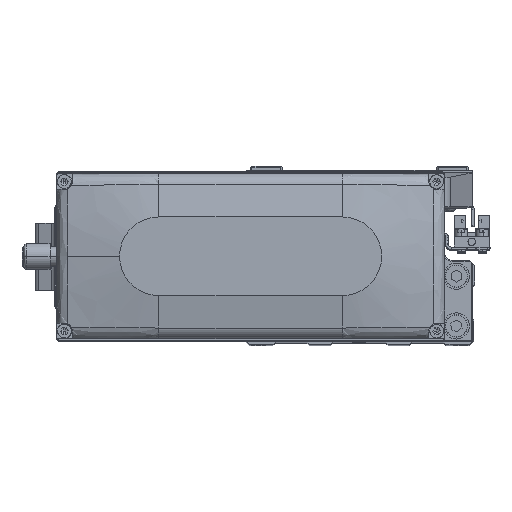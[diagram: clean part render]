
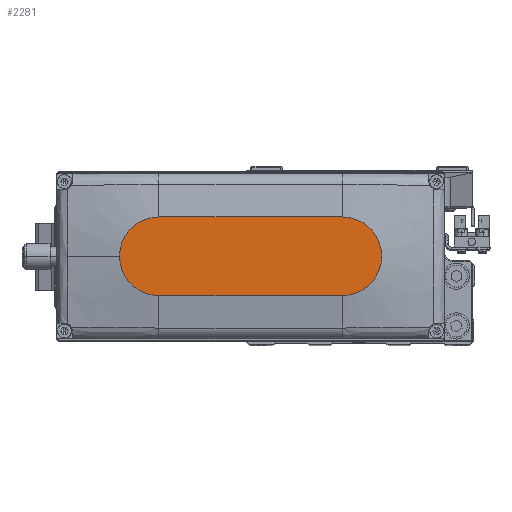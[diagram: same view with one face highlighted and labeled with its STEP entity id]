
A CAD part, top view. The second image highlights one B-rep face of the part: STEP entity #2281.
In plain terms, the highlighted planar face has unit normal (0, 0, 1).
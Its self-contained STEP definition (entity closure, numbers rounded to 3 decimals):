
#109 = AXIS2_PLACEMENT_3D ( 'NONE', #28724, #42926, #10992 ) ;
#1047 = DIRECTION ( 'NONE',  ( 1., 0., 0. ) ) ;
#2281 = ADVANCED_FACE ( 'NONE', ( #35254 ), #3346, .T. ) ;
#2403 = LINE ( 'NONE', #16615, #42410 ) ;
#3346 = PLANE ( 'NONE',  #34891 ) ;
#3487 = CIRCLE ( 'NONE', #29521, 15. ) ;
#5481 = DIRECTION ( 'NONE',  ( 1., 0., 0. ) ) ;
#7515 = EDGE_CURVE ( 'NONE', #37792, #17676, #8866, .T. ) ;
#7723 = VERTEX_POINT ( 'NONE', #34586 ) ;
#8866 = CIRCLE ( 'NONE', #34934, 15. ) ;
#10198 = DIRECTION ( 'NONE',  ( -1., 0., 0. ) ) ;
#10238 = EDGE_CURVE ( 'NONE', #36205, #7723, #40280, .T. ) ;
#10992 = DIRECTION ( 'NONE',  ( 1., 0., 0. ) ) ;
#11306 = ORIENTED_EDGE ( 'NONE', *, *, #21818, .T. ) ;
#11506 = EDGE_LOOP ( 'NONE', ( #20276, #35258, #13019, #11306, #43481 ) ) ;
#13019 = ORIENTED_EDGE ( 'NONE', *, *, #20575, .T. ) ;
#16494 = CARTESIAN_POINT ( 'NONE',  ( -35., 15., 35. ) ) ;
#16615 = CARTESIAN_POINT ( 'NONE',  ( -35., -15., 35. ) ) ;
#17558 = CARTESIAN_POINT ( 'NONE',  ( 0., 0., 35. ) ) ;
#17676 = VERTEX_POINT ( 'NONE', #37256 ) ;
#18763 = CARTESIAN_POINT ( 'NONE',  ( -35., 0., 35. ) ) ;
#20276 = ORIENTED_EDGE ( 'NONE', *, *, #40781, .T. ) ;
#20575 = EDGE_CURVE ( 'NONE', #17676, #33649, #2403, .T. ) ;
#21818 = EDGE_CURVE ( 'NONE', #33649, #36205, #3487, .T. ) ;
#23206 = CARTESIAN_POINT ( 'NONE',  ( 35., 0., 35. ) ) ;
#27930 = LINE ( 'NONE', #42135, #35273 ) ;
#28724 = CARTESIAN_POINT ( 'NONE',  ( 35., 0., 35. ) ) ;
#29521 = AXIS2_PLACEMENT_3D ( 'NONE', #23206, #37404, #5481 ) ;
#30830 = DIRECTION ( 'NONE',  ( 1., 0., 0. ) ) ;
#30999 = CARTESIAN_POINT ( 'NONE',  ( 50., 0., 35. ) ) ;
#31771 = DIRECTION ( 'NONE',  ( 0., 0., 1. ) ) ;
#32970 = DIRECTION ( 'NONE',  ( 0., 0., 1. ) ) ;
#33649 = VERTEX_POINT ( 'NONE', #39758 ) ;
#34586 = CARTESIAN_POINT ( 'NONE',  ( 35., 15., 35. ) ) ;
#34891 = AXIS2_PLACEMENT_3D ( 'NONE', #17558, #31771, #45984 ) ;
#34934 = AXIS2_PLACEMENT_3D ( 'NONE', #18763, #32970, #1047 ) ;
#35254 = FACE_OUTER_BOUND ( 'NONE', #11506, .T. ) ;
#35258 = ORIENTED_EDGE ( 'NONE', *, *, #7515, .T. ) ;
#35273 = VECTOR ( 'NONE', #10198, 1000. ) ;
#36205 = VERTEX_POINT ( 'NONE', #30999 ) ;
#37256 = CARTESIAN_POINT ( 'NONE',  ( -35., -15., 35. ) ) ;
#37404 = DIRECTION ( 'NONE',  ( 0., 0., 1. ) ) ;
#37792 = VERTEX_POINT ( 'NONE', #16494 ) ;
#39758 = CARTESIAN_POINT ( 'NONE',  ( 35., -15., 35. ) ) ;
#40280 = CIRCLE ( 'NONE', #109, 15. ) ;
#40781 = EDGE_CURVE ( 'NONE', #7723, #37792, #27930, .T. ) ;
#42135 = CARTESIAN_POINT ( 'NONE',  ( -35., 15., 35. ) ) ;
#42410 = VECTOR ( 'NONE', #30830, 1000. ) ;
#42926 = DIRECTION ( 'NONE',  ( 0., 0., 1. ) ) ;
#43481 = ORIENTED_EDGE ( 'NONE', *, *, #10238, .T. ) ;
#45984 = DIRECTION ( 'NONE',  ( 1., 0., 0. ) ) ;
